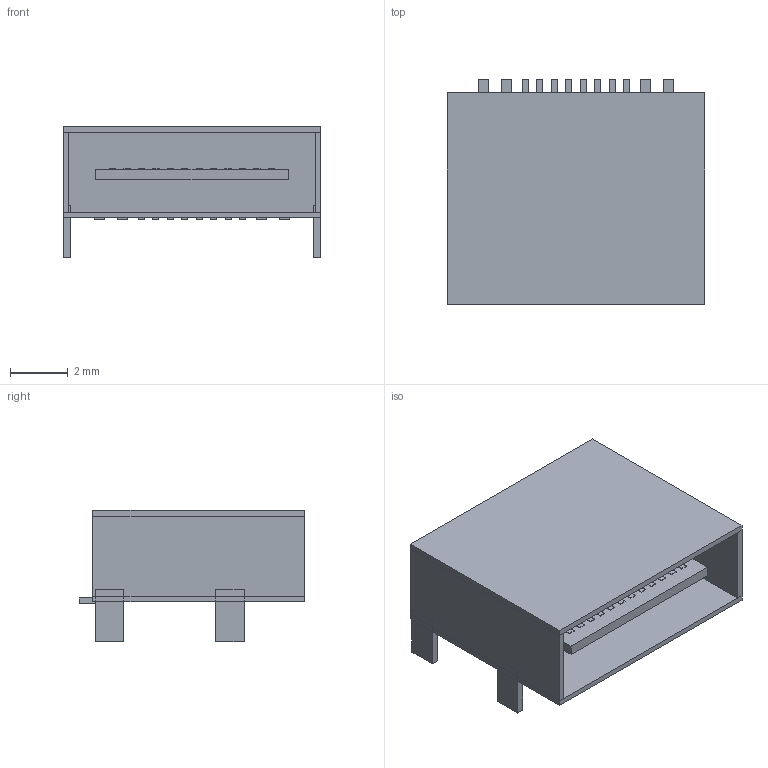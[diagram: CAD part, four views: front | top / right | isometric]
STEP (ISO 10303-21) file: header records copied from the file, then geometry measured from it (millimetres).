
FILE_DESCRIPTION(('FreeCAD Model'),'2;1');
FILE_NAME('Open CASCADE Shape Model','2026-09-23T12:07:02',('FreeCAD'),( 'FreeCAD'),'Open CASCADE STEP processor 7.8','FreeCAD','Unknown');
FILE_SCHEMA(('AUTOMOTIVE_DESIGN { 1 0 10303 214 1 1 1 1 }'));
Length unit declared in the file: millimetre
Products named in the file (1): Open CASCADE STEP translator 7.8 49
Bounding box: 8.94 x 7.82 x 4.56 mm (x, y, z)
Volume: 67.1 mm3; surface area: 549.6 mm2
Topology: 34 solids, 34 shells, 204 faces, 408 edges, 272 vertices
Faces by surface type: plane 204
Entity records: 5116 total; most frequent: CARTESIAN_POINT 885, DIRECTION 818, ORIENTED_EDGE 816, EDGE_CURVE 408, LINE 408, VECTOR 408, VERTEX_POINT 272, AXIS2_PLACEMENT_3D 205
